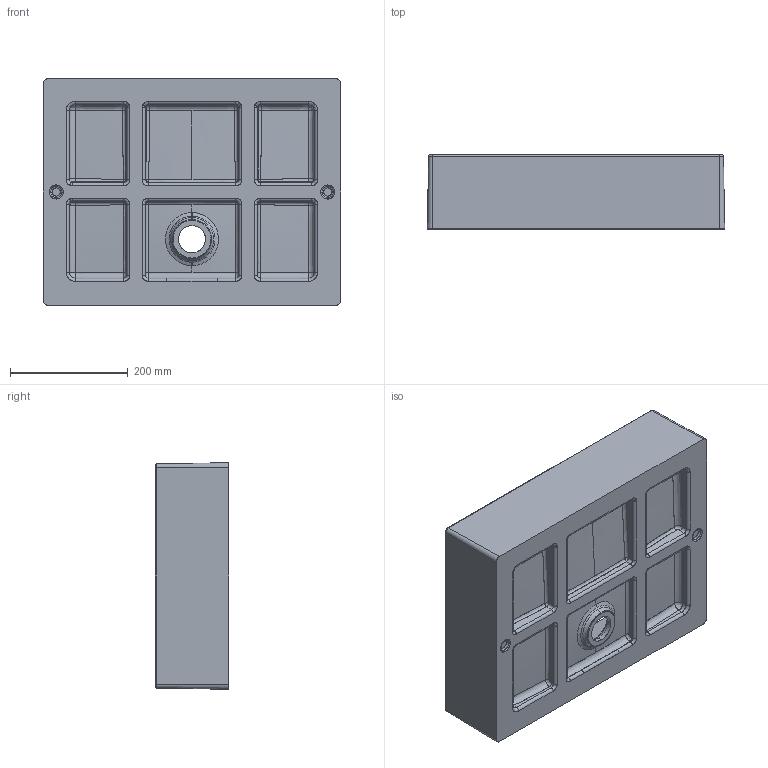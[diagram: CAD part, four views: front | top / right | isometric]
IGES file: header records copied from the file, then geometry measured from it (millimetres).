
Start section: SolidWorks IGES file using NURBS representation for surfaces
Global section: file name: C:\Users\User\Desktop\nuovi box slim\slim square art. SS05038001 60 x 38.IGS; native system: SolidWorks 2016; preprocessor: SolidWorks 2016; author: User; date: 170421.144304; units: millimetre
Bounding box: 504.36 x 125 x 384.36 mm (x, y, z)
Surface area: 749655.2 mm2 (no closed solid volume)
Topology: 0 solids, 0 shells, 242 faces, 2667 edges, 2663 vertices
Faces by surface type: bspline 242
